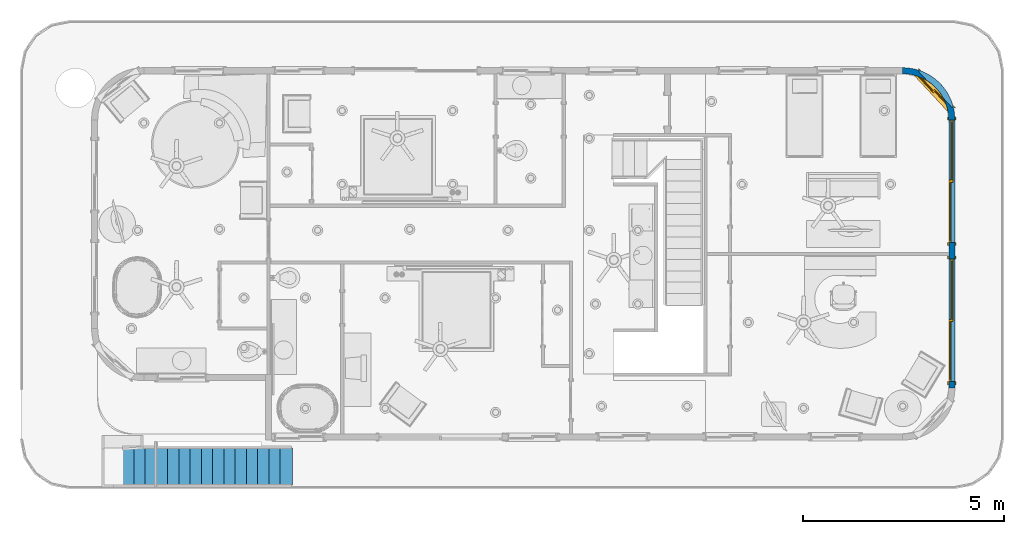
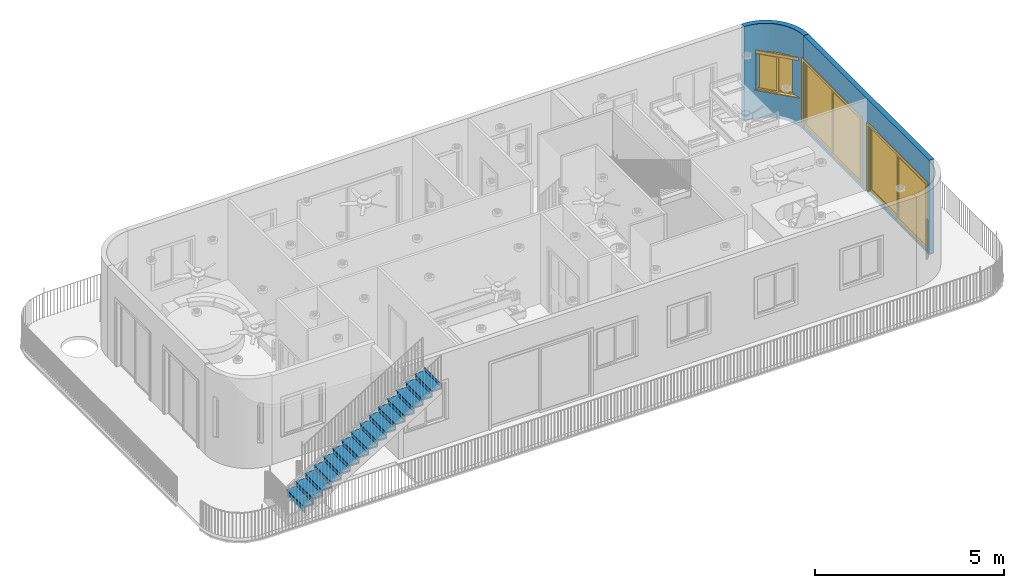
# One storey, part 7 of 28: 2 doors, 2 walls, 1 stair flight, 1 window, 4 openings, 1 element without a shape of its own.
"""IFC2X3 building model written with IfcOpenShell, lengths in feet."""

from ifc_helpers import new_model, entity, si_unit, converted_unit, derived_unit, direction, frame, frame_2d, origin, origin_2d_with_axis, place, context, subcontext, project, spatial, polyline, circle_curve, parameter, trimmed, segment, composite_curve, rectangle, outline, extrude, source, transform, mapped, material, material_list, layer, layer_set, layer_usage, type_object, type_shapes, element, fill, aggregate, save


model = new_model("IFC2X3")

# Units and contexts
model_context = context("Model", 3, precision=0.0001, world=origin(), true_north=direction((6.12303176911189e-17, 1.0)))
body_context = subcontext(model_context, "Body", "Model", "MODEL_VIEW")
ifc_project = project(units=[converted_unit("LENGTHUNIT", "FOOT", entity("IfcRatioMeasure", 0.3048), si_unit("LENGTHUNIT", "METRE"), dimensions=[1, 0, 0, 0, 0, 0, 0]), converted_unit("AREAUNIT", "SQUARE FOOT", entity("IfcRatioMeasure", 0.09290304), si_unit("AREAUNIT", "SQUARE_METRE"), dimensions=[2, 0, 0, 0, 0, 0, 0]), converted_unit("VOLUMEUNIT", "CUBIC FOOT", entity("IfcRatioMeasure", 0.028316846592), si_unit("VOLUMEUNIT", "CUBIC_METRE"), dimensions=[3, 0, 0, 0, 0, 0, 0]), converted_unit("PLANEANGLEUNIT", "DEGREE", entity("IfcRatioMeasure", 0.0174532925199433), si_unit("PLANEANGLEUNIT", "RADIAN"), dimensions=[0, 0, 0, 0, 0, 0, 0]), si_unit("MASSUNIT", "GRAM", prefix="KILO"), derived_unit("MASSDENSITYUNIT", [(si_unit("MASSUNIT", "GRAM", prefix="KILO"), 1), (si_unit("LENGTHUNIT", "METRE"), -3)]), si_unit("TIMEUNIT", "SECOND"), si_unit("FREQUENCYUNIT", "HERTZ"), si_unit("THERMODYNAMICTEMPERATUREUNIT", "DEGREE_CELSIUS"), derived_unit("THERMALTRANSMITTANCEUNIT", [(si_unit("MASSUNIT", "GRAM", prefix="KILO"), 1), (si_unit("THERMODYNAMICTEMPERATUREUNIT", "KELVIN"), -1), (si_unit("TIMEUNIT", "SECOND"), -3)]), derived_unit("VOLUMETRICFLOWRATEUNIT", [(si_unit("LENGTHUNIT", "METRE"), 3), (si_unit("TIMEUNIT", "SECOND"), -1)]), si_unit("ELECTRICCURRENTUNIT", "AMPERE"), si_unit("ELECTRICVOLTAGEUNIT", "VOLT"), si_unit("POWERUNIT", "WATT"), si_unit("FORCEUNIT", "NEWTON"), si_unit("ILLUMINANCEUNIT", "LUX"), si_unit("LUMINOUSFLUXUNIT", "LUMEN"), si_unit("LUMINOUSINTENSITYUNIT", "CANDELA"), derived_unit("USERDEFINED", [(si_unit("MASSUNIT", "GRAM", prefix="KILO"), -1), (si_unit("LENGTHUNIT", "METRE"), -2), (si_unit("TIMEUNIT", "SECOND"), 3), (si_unit("LUMINOUSFLUXUNIT", "LUMEN"), 1)]), derived_unit("LINEARVELOCITYUNIT", [(si_unit("LENGTHUNIT", "METRE"), 1), (si_unit("TIMEUNIT", "SECOND"), -1)]), si_unit("PRESSUREUNIT", "PASCAL"), derived_unit("USERDEFINED", [(si_unit("LENGTHUNIT", "METRE"), -2), (si_unit("MASSUNIT", "GRAM", prefix="KILO"), 1), (si_unit("TIMEUNIT", "SECOND"), -2)])], contexts=[model_context])

# Site, building, storey
site_placement = place(None, origin())
site = spatial("IfcSite", under=ifc_project, at=site_placement, Name="表面", CompositionType="ELEMENT")
building_placement = place(site_placement, origin())
building = spatial("IfcBuilding", under=site, at=building_placement, CompositionType="ELEMENT")
storey_placement = place(building_placement, frame((0.0, 0.0, 10.0)))
storey = spatial("IfcBuildingStorey", under=building, at=storey_placement, Name="Level 2", CompositionType="ELEMENT", Elevation=9.99999999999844)

# Wall, openings, doors
ifc_material_1 = material(Name="Paint")
ifc_layer_1 = layer(ifc_material_1, 0.333333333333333)
ifc_material_2 = material(Name="Paints and Coatings")
ifc_layer_2 = layer(ifc_material_2, 0.166666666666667)
ifc_layer_set = layer_set([ifc_layer_1, ifc_layer_2], Name="基本墙:Generic - 4\" Brick")
ifc_layer_usage_1 = layer_usage(ifc_layer_set, "AXIS2", "NEGATIVE", 0.25)
wall_type = type_object("IfcWallType", Name="基本墙:Generic - 4\" Brick", PredefinedType="STANDARD", material=ifc_layer_set)
wall_1_placement = place(storey_placement, frame((35.7984202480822, 12.6823936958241, 0.0), z_axis=(0.0, 0.0, 1.0), x_axis=(0.0, -1.0, 0.0)))
wall_1 = element("IfcWallStandardCase", 1, at=wall_1_placement, inside=storey, type_object=wall_type, material=ifc_layer_usage_1, Name="基本墙:Generic - 4\" Brick", ObjectType="基本墙:Generic - 4\" Brick:257", context=body_context, shape_type="SweptSolid", body=[
    extrude(rectangle(XDim=21.8333333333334, YDim=0.5, at=frame_2d((10.9166666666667, 4.44089209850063e-16), x_axis=(-1.0, 0.0))), origin(), (0.0, 0.0, 1.0), 9.99999999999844),
])
opening_1_placement = place(wall_1_placement, frame((10.0, 0.249999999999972, 0.333333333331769)))
opening_1 = element("IfcOpeningElement", 2, at=opening_1_placement, cuts=wall_1, Name="Sliding-2 panel:72\" x 84\":1", ObjectType="Opening", context=body_context, shape_type="SweptSolid", body=[
    extrude(rectangle(XDim=7.0, YDim=10.0, at=frame_2d((3.5, 5.0), x_axis=(-1.0, 0.0))), frame((0.0, 0.0, 0.0), z_axis=(0.0, -1.0, 0.0), x_axis=(0.0, 0.0, 1.0)), (0.0, 0.0, 1.0), 0.5),
])
opening_2_placement = place(wall_1_placement, frame((21.3333333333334, 0.24999999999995, 0.333333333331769)))
opening_2 = element("IfcOpeningElement", 3, at=opening_2_placement, cuts=wall_1, Name="Sliding-2 panel:72\" x 84\":1", ObjectType="Opening", context=body_context, shape_type="SweptSolid", body=[
    extrude(rectangle(XDim=7.0, YDim=10.0, at=frame_2d((3.5, 5.0), x_axis=(-1.0, 0.0))), frame((0.0, 0.0, 0.0), z_axis=(0.0, -1.0, 0.0), x_axis=(0.0, 0.0, 1.0)), (0.0, 0.0, 1.0), 0.5),
])
ifc_material_3 = material(Name="Glass")
ifc_material_4 = material(Name="Door - Panel")
ifc_material_5 = material(Name="Door - Frame")
ifc_material_list_1 = material_list([ifc_material_3, ifc_material_4, ifc_material_5])
ifc_material_list_2 = material_list([ifc_material_3, ifc_material_4, ifc_material_5])
door_style = type_object("IfcDoorStyle", Name="72\" x 84\"", ConstructionType="NOTDEFINED", OperationType="NOTDEFINED", ParameterTakesPrecedence=False, Sizeable=False, material=ifc_material_list_2)
shared_shape_1 = source(origin(), body_context, "Body", "SweptSolid", [
    extrude(rectangle(XDim=0.0208333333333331, YDim=4.74999999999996, at=frame_2d((5.55111512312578e-17, 0.0), x_axis=(1.0, 0.0))), frame((7.45833333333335, 0.250000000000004, 0.249999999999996), z_axis=(0.0, 0.0, 1.0), x_axis=(0.0, -1.0, 0.0)), (0.0, 0.0, 1.0), 6.5),
    extrude(outline(polyline([(-2.54166666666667, -3.5), (2.54166666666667, -3.5), (2.54166666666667, 3.5), (-2.54166666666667, 3.5), (-2.54166666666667, -3.5)]), holes=[polyline([(-2.375, -3.25), (-2.375, 3.25), (2.375, 3.25), (2.375, -3.25), (-2.375, -3.25)])]), frame((7.45833333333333, 0.166666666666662, 3.5), z_axis=(0.0, 1.0, 0.0), x_axis=(1.0, 0.0, 0.0)), (0.0, 0.0, 1.0), 0.166666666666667),
    extrude(rectangle(XDim=0.0208333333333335, YDim=4.75000000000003, at=frame_2d((0.0, -4.44089209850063e-16), x_axis=(1.0, 0.0))), frame((2.54166666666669, 0.416666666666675, 0.249999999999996), z_axis=(0.0, 0.0, 1.0), x_axis=(0.0, -1.0, 0.0)), (0.0, 0.0, 1.0), 6.5),
    extrude(outline(polyline([(-3.5, -2.54166666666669), (3.5, -2.54166666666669), (3.5, 2.54166666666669), (-3.5, 2.54166666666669), (-3.5, -2.54166666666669)]), holes=[polyline([(-3.25, -2.37500000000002), (-3.25, 2.37500000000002), (3.25, 2.37500000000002), (3.25, -2.37500000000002), (-3.25, -2.37500000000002)])]), frame((2.54166666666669, 0.333333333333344, 3.5), z_axis=(0.0, 1.0, 0.0), x_axis=(0.0, 0.0, -1.0)), (0.0, 0.0, 1.0), 0.166666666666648),
    extrude(outline(polyline([(-3.5625, -5.25), (3.6875, -5.25), (3.6875, 5.25), (-3.5625, 5.25), (-3.5625, 5.0), (3.4375, 5.0), (3.4375, -5.0), (-3.5625, -5.0), (-3.5625, -5.25)])), frame((5.0, -0.0833333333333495, 3.5625), z_axis=(0.0, 1.0, 0.0), x_axis=(0.0, 0.0, 1.0)), (0.0, 0.0, 1.0), 0.0833333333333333),
    extrude(outline(polyline([(-5.24999999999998, -3.56250000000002), (-5.0, -3.56250000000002), (-5.0, 3.43749999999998), (5.0, 3.43750000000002), (5.0, -3.56249999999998), (5.25000000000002, -3.56249999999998), (5.24999999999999, 3.68750000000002), (-5.25000000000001, 3.68749999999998), (-5.24999999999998, -3.56250000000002)])), frame((5.0, 0.499999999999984, 3.5625), z_axis=(0.0, 1.0, 0.0), x_axis=(-1.0, 0.0, 0.0)), (0.0, 0.0, 1.0), 0.0833333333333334),
])
type_shapes(door_style, [shared_shape_1])
door_1_placement = place(opening_1_placement, frame((0.0, 0.0, 0.0), z_axis=(0.0, 0.0, 1.0), x_axis=(-1.0, 0.0, 0.0)))
door_1 = element("IfcDoor", 4, at=door_1_placement, inside=storey, type_object=door_style, material=ifc_material_list_1, Name="Sliding-2 panel:72\" x 84\"", ObjectType="72\" x 84\"", OverallHeight=7.0, OverallWidth=10.0, context=body_context, shape_type="MappedRepresentation", body=[
    mapped(shared_shape_1, transform((0.0, 0.0, 0.0), scale=1.0)),
])
fill(opening_1, door_1)
ifc_material_list_3 = material_list([ifc_material_3, ifc_material_4, ifc_material_5])
door_2_placement = place(opening_2_placement, frame((0.0, 0.0, 0.0), z_axis=(0.0, 0.0, 1.0), x_axis=(-1.0, 0.0, 0.0)))
door_2 = element("IfcDoor", 5, at=door_2_placement, inside=storey, type_object=door_style, material=ifc_material_list_3, Name="Sliding-2 panel:72\" x 84\"", ObjectType="72\" x 84\"", OverallHeight=7.0, OverallWidth=10.0, context=body_context, shape_type="MappedRepresentation", body=[
    mapped(shared_shape_1, transform((0.0, 0.0, 0.0), scale=1.0)),
])
fill(opening_2, door_2)

# Wall, openings, window
ifc_layer_usage_2 = layer_usage(ifc_layer_set, "AXIS2", "POSITIVE", -0.25)
wall_2_placement = place(storey_placement, frame((31.7984202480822, 16.6823936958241, 0.0)))
wall_2 = element("IfcWallStandardCase", 6, at=wall_2_placement, inside=storey, type_object=wall_type, material=ifc_layer_usage_2, Name="基本墙:Generic - 4\" Brick", ObjectType="基本墙:Generic - 4\" Brick:257", context=body_context, shape_type="SweptSolid", body=[
    extrude(outline(composite_curve([segment(trimmed(circle_curve(frame_2d((0.0, -4.0), x_axis=(1.0, 0.0)), 4.25), [parameter(359.999999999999)], [parameter(90.0000000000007)], True, "PARAMETER"), True, "CONTINUOUS"), segment(polyline([(0.0, 0.25), (0.0, -0.25)]), True, "CONTINUOUS"), segment(trimmed(circle_curve(frame_2d((0.0, -4.0), x_axis=(1.0, 0.0)), 3.75), [parameter(359.999999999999)], [parameter(90.0000000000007)], True, "PARAMETER"), False, "CONTINUOUS"), segment(polyline([(3.75000000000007, -4.0), (4.25000000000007, -4.0)]), True, "CONTINUOUS")], self_intersect=False)), origin(), (0.0, 0.0, 1.0), 9.99999999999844),
])
opening_3_placement = place(wall_2_placement, origin())
element("IfcOpeningElement", 7, at=opening_3_placement, cuts=wall_2, Name="基本墙:Generic - 4\" Brick", ObjectType="Opening", context=body_context, shape_type="SweptSolid", body=[
    extrude(rectangle(XDim=0.5, YDim=10.0, at=frame_2d((-3.5527136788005e-15, -4.44089209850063e-16), x_axis=(1.0, 0.0))), frame((4.0, -9.0, 0.333333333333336), z_axis=(0.0, 0.0, 1.0), x_axis=(-1.0, 0.0, 0.0)), (0.0, 0.0, 1.0), 7.0),
])
opening_4_placement = place(wall_2_placement, frame((7.40962722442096, 0.142453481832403, 3.0)))
opening_4 = element("IfcOpeningElement", 8, at=opening_4_placement, cuts=wall_2, Name="Slider with Trim:48\" x 48\":1", ObjectType="Opening", context=body_context, shape_type="SweptSolid", body=[
    extrude(rectangle(XDim=3.99999999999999, YDim=3.99999999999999, at=frame_2d((2.0, 2.0), x_axis=(-1.0, 0.0))), frame((0.0, 0.0, 0.0), z_axis=(-0.733315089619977, -0.679888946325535, 0.0), x_axis=(0.0, 0.0, 1.0)), (0.0, 0.0, 1.0), 4.62701643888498),
])
ifc_material_6 = material(Name="Sash")
ifc_material_7 = material(Name="Trim")
ifc_material_list_4 = material_list([ifc_material_3, ifc_material_6, ifc_material_7])
ifc_material_list_5 = material_list([ifc_material_3, ifc_material_6, ifc_material_7])
window_style = type_object("IfcWindowStyle", Name="48\" x 48\"", ConstructionType="NOTDEFINED", OperationType="NOTDEFINED", ParameterTakesPrecedence=False, Sizeable=False, material=ifc_material_list_5)
shared_shape_2 = source(origin(), body_context, "Body", "SweptSolid", [
    extrude(rectangle(XDim=0.0416666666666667, YDim=1.71875000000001, at=origin_2d_with_axis()), frame((1.06770833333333, 0.21875, 0.208333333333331), z_axis=(0.0, 0.0, 1.0), x_axis=(0.0, -1.0, 0.0)), (0.0, 0.0, 1.0), 3.58333333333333),
    extrude(outline(polyline([(-1.00520833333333, -1.9375), (1.00520833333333, -1.9375), (1.00520833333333, 1.9375), (-1.00520833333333, 1.9375), (-1.00520833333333, -1.9375)]), holes=[polyline([(-0.859374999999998, -1.79166666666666), (-0.859374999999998, 1.79166666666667), (0.859374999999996, 1.79166666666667), (0.859374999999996, -1.79166666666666), (-0.859374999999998, -1.79166666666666)])]), frame((1.06770833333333, 0.145833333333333, 2.0), z_axis=(0.0, 1.0, 0.0), x_axis=(1.0, 0.0, 0.0)), (0.0, 0.0, 1.0), 0.145833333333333),
    extrude(rectangle(XDim=0.104166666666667, YDim=4.45833333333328, at=frame_2d((-2.77555756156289e-17, 0.0), x_axis=(1.0, 0.0))), frame((2.0, 0.552083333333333, 0.0), z_axis=(0.0, 0.0, 1.0), x_axis=(0.0, -1.0, 0.0)), (0.0, 0.0, 1.0), 0.0624999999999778),
    extrude(outline(polyline([(-1.86458333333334, 1.9375), (2.01041666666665, 1.9375), (2.01041666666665, 2.22916666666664), (-2.15624999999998, 2.22916666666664), (-2.15624999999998, -2.22916666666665), (2.01041666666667, -2.22916666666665), (2.01041666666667, -1.93749999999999), (-1.86458333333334, -1.93749999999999), (-1.86458333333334, 1.9375)])), frame((2.0, 0.5, 2.07291666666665), z_axis=(0.0, 1.0, 0.0), x_axis=(0.0, 0.0, -1.0)), (0.0, 0.0, 1.0), 0.0625),
    extrude(outline(polyline([(-2.18749999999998, -2.18749999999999), (2.18749999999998, -2.18749999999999), (2.18749999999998, 2.18749999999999), (-2.18749999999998, 2.18749999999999), (-2.18749999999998, -2.18749999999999)]), holes=[polyline([(-1.89583333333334, -1.89583333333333), (-1.89583333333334, 1.89583333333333), (1.89583333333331, 1.89583333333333), (1.89583333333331, -1.89583333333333), (-1.89583333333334, -1.89583333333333)])]), frame((2.0, -0.0625, 2.0), z_axis=(0.0, 1.0, 0.0), x_axis=(0.0, 0.0, -1.0)), (0.0, 0.0, 1.0), 0.0625),
    extrude(rectangle(XDim=0.0416666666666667, YDim=1.71874999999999, at=frame_2d((1.38777878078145e-17, 0.0), x_axis=(1.0, 0.0))), frame((2.93229166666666, 0.364583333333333, 0.208333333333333), z_axis=(0.0, 0.0, 1.0), x_axis=(0.0, 1.0, 0.0)), (0.0, 0.0, 1.0), 3.58333333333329),
    extrude(outline(polyline([(-1.00520833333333, -1.93749999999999), (1.00520833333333, -1.93749999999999), (1.00520833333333, 1.93749999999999), (-1.00520833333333, 1.93749999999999), (-1.00520833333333, -1.93749999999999)]), holes=[polyline([(-0.859374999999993, -1.79166666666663), (-0.859374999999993, 1.79166666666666), (0.859374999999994, 1.79166666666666), (0.859374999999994, -1.79166666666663), (-0.859374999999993, -1.79166666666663)])]), frame((2.93229166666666, 0.291666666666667, 2.0), z_axis=(0.0, 1.0, 0.0), x_axis=(1.0, 0.0, 0.0)), (0.0, 0.0, 1.0), 0.145833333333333),
    extrude(outline(polyline([(-2.0, -2.0), (2.0, -2.0), (2.0, 2.0), (-2.0, 2.0), (-2.0, -2.0)]), holes=[polyline([(-1.89583333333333, -1.89583333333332), (-1.89583333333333, 1.89583333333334), (1.89583333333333, 1.89583333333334), (1.89583333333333, -1.89583333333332), (-1.89583333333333, -1.89583333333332)])]), frame((2.0, 0.0, 2.0), z_axis=(0.0, 1.0, 0.0), x_axis=(1.0, 0.0, 0.0)), (0.0, 0.0, 1.0), 0.145833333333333),
    extrude(outline(polyline([(-2.0, -2.0), (2.0, -2.0), (2.0, 2.0), (-2.0, 2.0), (-2.0, -2.0)]), holes=[polyline([(-1.9375, -1.93749999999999), (-1.9375, 1.9375), (1.9375, 1.9375), (1.9375, -1.93749999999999), (-1.9375, -1.93749999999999)])]), frame((2.0, 0.145833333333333, 2.0), z_axis=(0.0, 1.0, 0.0), x_axis=(0.0, 0.0, -1.0)), (0.0, 0.0, 1.0), 0.354166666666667),
])
type_shapes(window_style, [shared_shape_2])
window_placement = place(opening_4_placement, frame((-3.29991774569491, -3.0595001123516, 0.0), z_axis=(0.0, 0.0, 1.0), x_axis=(-0.679888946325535, 0.733315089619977, 0.0)))
window = element("IfcWindow", 9, at=window_placement, inside=storey, type_object=window_style, material=ifc_material_list_4, Name="Slider with Trim:48\" x 48\"", ObjectType="48\" x 48\"", OverallHeight=3.99999999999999, OverallWidth=3.99999999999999, context=body_context, shape_type="MappedRepresentation", body=[
    mapped(shared_shape_2, transform((0.0, 0.0, 0.0), scale=1.0)),
])
fill(opening_4, window)

# Stair, stair flight
stair_placement = place(storey_placement, origin())
stair = element("IfcStair", 10, at=stair_placement, inside=storey, Name="楼梯:7\" max riser 11\" tread", ObjectType="楼梯:7\" max riser 11\" tread", ShapeType="NOTDEFINED")
ifc_material_8 = material(Name="Metal - Aluminum")
stair_flight_placement = place(stair_placement, origin())
stair_flight = element("IfcStairFlight", 11, at=stair_flight_placement, material=ifc_material_8, Name="楼梯:7\" max riser 11\" tread:2", ObjectType="楼梯:7\" max riser 11\" tread", NumberOfRiser=16, NumberOfTreads=15, RiserHeight=0.555555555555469, TreadLength=0.916666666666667, context=body_context, shape_type="SweptSolid", body=[
    extrude(rectangle(XDim=3.0, YDim=0.0208333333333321, at=frame_2d((0.0, -1.77635683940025e-15), x_axis=(1.0, 0.0))), frame((-31.6703297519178, -15.5676063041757, 0.944444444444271), z_axis=(0.0, 0.0, 1.0), x_axis=(0.0, 1.0, 0.0)), (0.0, 0.0, 1.0), 0.55555555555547),
    extrude(outline(polyline([(-0.0902777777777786, -0.638888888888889), (0.0763888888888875, -0.638888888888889), (0.0763888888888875, 0.277777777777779), (0.0555555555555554, 0.277777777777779), (-0.0277777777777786, 0.361111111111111), (-0.0902777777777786, 0.361111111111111), (-0.0902777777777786, -0.638888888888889)])), frame((-31.4029686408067, -17.0676063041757, 1.57638888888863), z_axis=(0.0, 1.0, 0.0), x_axis=(0.0, 0.0, -1.0)), (0.0, 0.0, 1.0), 3.0),
    extrude(rectangle(XDim=3.0, YDim=0.0208333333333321, at=frame_2d((0.0, -1.77635683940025e-15), x_axis=(1.0, 0.0))), frame((-30.7536630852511, -15.5676063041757, 1.49999999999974), z_axis=(0.0, 0.0, 1.0), x_axis=(0.0, 1.0, 0.0)), (0.0, 0.0, 1.0), 0.55555555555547),
    extrude(outline(polyline([(-0.0902777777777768, -0.638888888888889), (0.0763888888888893, -0.638888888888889), (0.0763888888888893, 0.277777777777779), (0.0555555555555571, 0.277777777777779), (-0.0277777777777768, 0.361111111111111), (-0.0902777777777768, 0.361111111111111), (-0.0902777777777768, -0.638888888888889)])), frame((-30.48630197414, -17.0676063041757, 2.1319444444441), z_axis=(0.0, 1.0, 0.0), x_axis=(0.0, 0.0, -1.0)), (0.0, 0.0, 1.0), 3.0),
    extrude(rectangle(XDim=3.0, YDim=0.0208333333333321, at=frame_2d((0.0, -1.77635683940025e-15), x_axis=(1.0, 0.0))), frame((-29.8369964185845, -15.5676063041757, 2.05555555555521), z_axis=(0.0, 0.0, 1.0), x_axis=(0.0, 1.0, 0.0)), (0.0, 0.0, 1.0), 0.55555555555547),
    extrude(outline(polyline([(-0.0902777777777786, -0.638888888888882), (0.0763888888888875, -0.638888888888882), (0.0763888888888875, 0.277777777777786), (0.0555555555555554, 0.277777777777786), (-0.0277777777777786, 0.361111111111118), (-0.0902777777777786, 0.361111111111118), (-0.0902777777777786, -0.638888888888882)])), frame((-29.5696353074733, -17.0676063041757, 2.68749999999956), z_axis=(0.0, 1.0, 0.0), x_axis=(0.0, 0.0, -1.0)), (0.0, 0.0, 1.0), 3.0),
    extrude(rectangle(XDim=3.0, YDim=0.0208333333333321, at=frame_2d((0.0, -1.77635683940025e-15), x_axis=(1.0, 0.0))), frame((-28.9203297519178, -15.5676063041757, 2.61111111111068), z_axis=(0.0, 0.0, 1.0), x_axis=(0.0, 1.0, 0.0)), (0.0, 0.0, 1.0), 0.55555555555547),
    extrude(outline(polyline([(-0.0902777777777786, -0.638888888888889), (0.0763888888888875, -0.638888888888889), (0.0763888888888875, 0.277777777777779), (0.0555555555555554, 0.277777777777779), (-0.0277777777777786, 0.361111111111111), (-0.0902777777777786, 0.361111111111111), (-0.0902777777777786, -0.638888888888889)])), frame((-28.6529686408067, -17.0676063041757, 3.24305555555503), z_axis=(0.0, 1.0, 0.0), x_axis=(0.0, 0.0, -1.0)), (0.0, 0.0, 1.0), 3.0),
    extrude(rectangle(XDim=3.0, YDim=0.0208333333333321, at=frame_2d((0.0, -1.77635683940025e-15), x_axis=(1.0, 0.0))), frame((-28.0036630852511, -15.5676063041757, 3.16666666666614), z_axis=(0.0, 0.0, 1.0), x_axis=(0.0, 1.0, 0.0)), (0.0, 0.0, 1.0), 0.55555555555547),
    extrude(outline(polyline([(-0.0902777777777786, -0.638888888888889), (0.0763888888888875, -0.638888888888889), (0.0763888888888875, 0.277777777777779), (0.0555555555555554, 0.277777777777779), (-0.0277777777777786, 0.361111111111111), (-0.0902777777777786, 0.361111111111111), (-0.0902777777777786, -0.638888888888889)])), frame((-27.73630197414, -17.0676063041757, 3.7986111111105), z_axis=(0.0, 1.0, 0.0), x_axis=(0.0, 0.0, -1.0)), (0.0, 0.0, 1.0), 3.0),
    extrude(rectangle(XDim=3.0, YDim=0.0208333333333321, at=frame_2d((0.0, -1.77635683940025e-15), x_axis=(1.0, 0.0))), frame((-27.0869964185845, -15.5676063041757, 3.72222222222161), z_axis=(0.0, 0.0, 1.0), x_axis=(0.0, 1.0, 0.0)), (0.0, 0.0, 1.0), 0.55555555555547),
    extrude(outline(polyline([(-0.0902777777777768, -0.638888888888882), (0.0763888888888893, -0.638888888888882), (0.0763888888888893, 0.277777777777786), (0.0555555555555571, 0.277777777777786), (-0.0277777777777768, 0.361111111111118), (-0.0902777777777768, 0.361111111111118), (-0.0902777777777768, -0.638888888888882)])), frame((-26.8196353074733, -17.0676063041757, 4.35416666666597), z_axis=(0.0, 1.0, 0.0), x_axis=(0.0, 0.0, -1.0)), (0.0, 0.0, 1.0), 3.0),
    extrude(rectangle(XDim=3.0, YDim=0.0208333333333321, at=frame_2d((0.0, -1.77635683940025e-15), x_axis=(1.0, 0.0))), frame((-26.1703297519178, -15.5676063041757, 4.27777777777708), z_axis=(0.0, 0.0, 1.0), x_axis=(0.0, 1.0, 0.0)), (0.0, 0.0, 1.0), 0.55555555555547),
    extrude(outline(polyline([(-0.0902777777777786, -0.638888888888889), (0.0763888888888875, -0.638888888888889), (0.0763888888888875, 0.277777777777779), (0.0555555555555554, 0.277777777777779), (-0.0277777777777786, 0.361111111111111), (-0.0902777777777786, 0.361111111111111), (-0.0902777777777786, -0.638888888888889)])), frame((-25.9029686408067, -17.0676063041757, 4.90972222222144), z_axis=(0.0, 1.0, 0.0), x_axis=(0.0, 0.0, -1.0)), (0.0, 0.0, 1.0), 3.0),
    extrude(rectangle(XDim=3.0, YDim=0.0208333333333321, at=frame_2d((0.0, -1.77635683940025e-15), x_axis=(1.0, 0.0))), frame((-25.2536630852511, -15.5676063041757, 4.83333333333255), z_axis=(0.0, 0.0, 1.0), x_axis=(0.0, 1.0, 0.0)), (0.0, 0.0, 1.0), 0.55555555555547),
    extrude(outline(polyline([(-0.0902777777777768, -0.638888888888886), (0.0763888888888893, -0.638888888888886), (0.0763888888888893, 0.277777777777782), (0.0555555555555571, 0.277777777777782), (-0.0277777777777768, 0.361111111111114), (-0.0902777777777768, 0.361111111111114), (-0.0902777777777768, -0.638888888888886)])), frame((-24.98630197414, -17.0676063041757, 5.46527777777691), z_axis=(0.0, 1.0, 0.0), x_axis=(0.0, 0.0, -1.0)), (0.0, 0.0, 1.0), 3.0),
    extrude(rectangle(XDim=3.0, YDim=0.0208333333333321, at=frame_2d((0.0, -1.77635683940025e-15), x_axis=(1.0, 0.0))), frame((-24.3369964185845, -15.5676063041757, 5.38888888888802), z_axis=(0.0, 0.0, 1.0), x_axis=(0.0, 1.0, 0.0)), (0.0, 0.0, 1.0), 0.55555555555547),
    extrude(outline(polyline([(-0.0902777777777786, -0.638888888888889), (0.0763888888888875, -0.638888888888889), (0.0763888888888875, 0.277777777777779), (0.0555555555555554, 0.277777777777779), (-0.0277777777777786, 0.361111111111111), (-0.0902777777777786, 0.361111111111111), (-0.0902777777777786, -0.638888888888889)])), frame((-24.0696353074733, -17.0676063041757, 6.02083333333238), z_axis=(0.0, 1.0, 0.0), x_axis=(0.0, 0.0, -1.0)), (0.0, 0.0, 1.0), 3.0),
    extrude(rectangle(XDim=3.0, YDim=0.0208333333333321, at=frame_2d((0.0, -1.77635683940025e-15), x_axis=(1.0, 0.0))), frame((-23.4203297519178, -15.5676063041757, 5.94444444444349), z_axis=(0.0, 0.0, 1.0), x_axis=(0.0, 1.0, 0.0)), (0.0, 0.0, 1.0), 0.55555555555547),
    extrude(outline(polyline([(-0.0902777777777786, -0.638888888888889), (0.0763888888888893, -0.638888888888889), (0.0763888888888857, 0.277777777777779), (0.0555555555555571, 0.277777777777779), (-0.0277777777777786, 0.361111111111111), (-0.0902777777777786, 0.361111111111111), (-0.0902777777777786, -0.638888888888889)])), frame((-23.1529686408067, -17.0676063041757, 6.57638888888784), z_axis=(0.0, 1.0, 0.0), x_axis=(0.0, 0.0, -1.0)), (0.0, 0.0, 1.0), 3.0),
    extrude(rectangle(XDim=3.0, YDim=0.0208333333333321, at=frame_2d((0.0, -1.77635683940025e-15), x_axis=(1.0, 0.0))), frame((-22.5036630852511, -15.5676063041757, 6.49999999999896), z_axis=(0.0, 0.0, 1.0), x_axis=(0.0, 1.0, 0.0)), (0.0, 0.0, 1.0), 0.555555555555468),
    extrude(outline(polyline([(-0.0902777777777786, -0.638888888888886), (0.0763888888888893, -0.638888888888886), (0.0763888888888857, 0.277777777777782), (0.0555555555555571, 0.277777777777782), (-0.0277777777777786, 0.361111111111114), (-0.0902777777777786, 0.361111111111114), (-0.0902777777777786, -0.638888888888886)])), frame((-22.23630197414, -17.0676063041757, 7.13194444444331), z_axis=(0.0, 1.0, 0.0), x_axis=(0.0, 0.0, -1.0)), (0.0, 0.0, 1.0), 3.0),
    extrude(rectangle(XDim=3.0, YDim=0.0208333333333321, at=frame_2d((0.0, -1.77635683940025e-15), x_axis=(1.0, 0.0))), frame((-21.5869964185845, -15.5676063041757, 7.05555555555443), z_axis=(0.0, 0.0, 1.0), x_axis=(0.0, 1.0, 0.0)), (0.0, 0.0, 1.0), 0.555555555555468),
    extrude(outline(polyline([(-0.0902777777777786, -0.638888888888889), (0.0763888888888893, -0.638888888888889), (0.0763888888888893, 0.277777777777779), (0.0555555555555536, 0.277777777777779), (-0.0277777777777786, 0.361111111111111), (-0.0902777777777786, 0.361111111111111), (-0.0902777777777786, -0.638888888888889)])), frame((-21.3196353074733, -17.0676063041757, 7.68749999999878), z_axis=(0.0, 1.0, 0.0), x_axis=(0.0, 0.0, -1.0)), (0.0, 0.0, 1.0), 3.0),
    extrude(rectangle(XDim=3.0, YDim=0.0208333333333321, at=frame_2d((0.0, -1.77635683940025e-15), x_axis=(1.0, 0.0))), frame((-20.6703297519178, -15.5676063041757, 7.61111111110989), z_axis=(0.0, 0.0, 1.0), x_axis=(0.0, 1.0, 0.0)), (0.0, 0.0, 1.0), 0.555555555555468),
    extrude(outline(polyline([(-0.0902777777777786, -0.638888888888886), (0.0763888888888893, -0.638888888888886), (0.0763888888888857, 0.277777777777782), (0.0555555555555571, 0.277777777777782), (-0.0277777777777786, 0.361111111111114), (-0.0902777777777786, 0.361111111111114), (-0.0902777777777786, -0.638888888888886)])), frame((-20.4029686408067, -17.0676063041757, 8.24305555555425), z_axis=(0.0, 1.0, 0.0), x_axis=(0.0, 0.0, -1.0)), (0.0, 0.0, 1.0), 3.0),
    extrude(rectangle(XDim=3.0, YDim=0.0208333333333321, at=frame_2d((0.0, -1.77635683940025e-15), x_axis=(1.0, 0.0))), frame((-19.7536630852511, -15.5676063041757, 8.16666666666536), z_axis=(0.0, 0.0, 1.0), x_axis=(0.0, 1.0, 0.0)), (0.0, 0.0, 1.0), 0.555555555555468),
    extrude(outline(polyline([(-0.0902777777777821, -0.638888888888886), (0.0763888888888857, -0.638888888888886), (0.0763888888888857, 0.277777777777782), (0.05555555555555, 0.277777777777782), (-0.0277777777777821, 0.361111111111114), (-0.0902777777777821, 0.361111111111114), (-0.0902777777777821, -0.638888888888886)])), frame((-19.48630197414, -17.0676063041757, 8.79861111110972), z_axis=(0.0, 1.0, 0.0), x_axis=(0.0, 0.0, -1.0)), (0.0, 0.0, 1.0), 3.0),
    extrude(rectangle(XDim=3.0, YDim=0.0208333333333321, at=frame_2d((0.0, -1.77635683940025e-15), x_axis=(1.0, 0.0))), frame((-17.9203297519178, -15.5676063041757, 9.2777777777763), z_axis=(0.0, 0.0, 1.0), x_axis=(0.0, 1.0, 0.0)), (0.0, 0.0, 1.0), 0.555555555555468),
    extrude(rectangle(XDim=3.0, YDim=0.0208333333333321, at=frame_2d((0.0, -1.77635683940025e-15), x_axis=(1.0, 0.0))), frame((-18.8369964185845, -15.5676063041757, 8.72222222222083), z_axis=(0.0, 0.0, 1.0), x_axis=(0.0, 1.0, 0.0)), (0.0, 0.0, 1.0), 0.555555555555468),
    extrude(outline(polyline([(-0.0902777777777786, -0.638888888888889), (0.0763888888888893, -0.638888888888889), (0.0763888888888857, 0.277777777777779), (0.0555555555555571, 0.277777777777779), (-0.0277777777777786, 0.361111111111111), (-0.0902777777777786, 0.361111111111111), (-0.0902777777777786, -0.638888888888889)])), frame((-18.5696353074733, -17.0676063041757, 9.35416666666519), z_axis=(0.0, 1.0, 0.0), x_axis=(0.0, 0.0, -1.0)), (0.0, 0.0, 1.0), 3.0),
])
aggregate(stair, [stair_flight])

save(model, "model.ifc")
